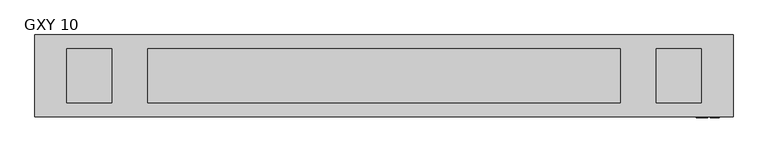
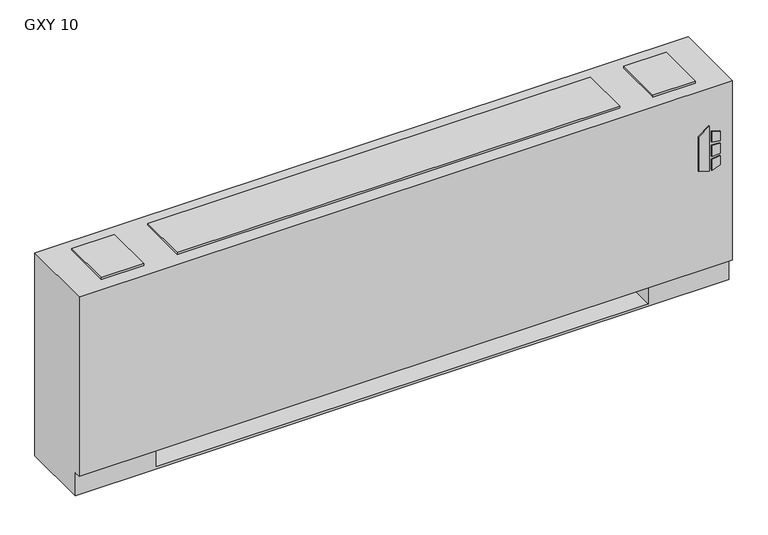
"""IFC4 building model written with IfcOpenShell, lengths in millimetres: proxy geometry, Vertical_Fan_Coil_Unit_-_GXY_-_IEC_-_2-Pipe_TS-FR_LH_2022 : GXY 10."""

from ifc_helpers import new_model, si_unit, point, frame, frame_2d, origin, place, context, project, spatial, polyline, circle_curve, trimmed, segment, composite_curve, outline, extrude, source, transform, mapped, element, save
from ifc_brep_helpers import plane_surface, revolved_surface, advanced_brep


def gxy_10_d176e5a6(model_context):
    return source(origin(), model_context, "Body", "SolidModel", [
        extrude(outline(polyline([(391.6086829, 1027.1868862), (381.6606126, 1059.3602728), (523.831537, 1059.3602728), (500.8095309, 1027.1868862), (391.6086829, 1027.1868862)])), frame((0.0, 12.7, 0.0), z_axis=(0.0, 1.0, 0.0), x_axis=(0.0, 0.0, 1.0)), (0.0, 0.0, 1.0), 3.175),
        extrude(outline(polyline([(470.6079683, 1066.1186058), (467.4055757, 1092.2), (496.6344168, 1092.2), (504.6988318, 1066.1186058), (470.6079683, 1066.1186058)])), frame((0.0, 12.7, 0.0), z_axis=(0.0, 1.0, 0.0), x_axis=(0.0, 0.0, 1.0)), (0.0, 0.0, 1.0), 3.175),
        extrude(outline(polyline([(418.7444414, 1092.2), (415.0789404, 1066.1186058), (381.6606126, 1066.1186058), (390.2948498, 1092.2), (418.7444414, 1092.2)])), frame((0.0, 12.7, 0.0), z_axis=(0.0, 1.0, 0.0), x_axis=(0.0, 0.0, 1.0)), (0.0, 0.0, 1.0), 3.175),
        extrude(outline(polyline([(458.0596028, 1092.2), (460.3414292, 1066.1186058), (424.4038806, 1066.1186058), (427.1451456, 1092.2), (458.0596028, 1092.2)])), frame((0.0, 12.7, 0.0), z_axis=(0.0, 1.0, 0.0), x_axis=(0.0, 0.0, 1.0)), (0.0, 0.0, 1.0), 3.175),
        extrude(outline(polyline([(889.0, 81.534), (889.0, 223.266), (1009.65, 223.266), (1009.65, 81.534), (889.0, 81.534)])), frame((0.0, 0.0, 327.025), z_axis=(0.0, 0.0, 1.0), x_axis=(1.0, 0.0, 0.0)), (0.0, 0.0, 1.0), 260.35),
        extrude(outline(polyline([(-609.6, 206.375), (-609.6, 53.975), (-736.6, 53.975), (-736.6, 206.375), (-609.6, 206.375)])), frame((0.0, 0.0, 641.35), z_axis=(0.0, 0.0, 1.0), x_axis=(1.0, 0.0, 0.0)), (0.0, 0.0, 1.0), 6.35),
        extrude(outline(polyline([(1041.4, 206.375), (1041.4, 53.975), (914.4, 53.975), (914.4, 206.375), (1041.4, 206.375)])), frame((0.0, 0.0, 641.35), z_axis=(0.0, 0.0, 1.0), x_axis=(1.0, 0.0, 0.0)), (0.0, 0.0, 1.0), 6.35),
        extrude(outline(composite_curve([segment(trimmed(circle_curve(frame_2d((78.9432, 398.5514)), 7.9375), [point((78.9432, 406.4889))], [point((78.9432, 390.6139))], False, "CARTESIAN"), True, "CONTINUOUS"), segment(trimmed(circle_curve(frame_2d((78.9432, 398.5514)), 7.9375), [point((78.9432, 390.6139))], [point((78.9432, 406.4889))], False, "CARTESIAN"), True, "CONTINUOUS")], self_intersect=False)), frame((-635.0, 0.0, 0.0), z_axis=(1.0, 0.0, 0.0), x_axis=(0.0, 1.0, 0.0)), (0.0, 0.0, 1.0), 50.8),
        extrude(outline(composite_curve([segment(trimmed(circle_curve(frame_2d((155.9052, 537.3878)), 7.9375), [point((155.9052, 545.3253))], [point((155.9052, 529.4503))], False, "CARTESIAN"), True, "CONTINUOUS"), segment(trimmed(circle_curve(frame_2d((155.9052, 537.3878)), 7.9375), [point((155.9052, 529.4503))], [point((155.9052, 545.3253))], False, "CARTESIAN"), True, "CONTINUOUS")], self_intersect=False)), frame((-635.0, 0.0, 0.0), z_axis=(1.0, 0.0, 0.0), x_axis=(0.0, 1.0, 0.0)), (0.0, 0.0, 1.0), 50.8),
        advanced_brep(
        [(1130.3, 244.475, 641.35), (-825.5, 244.475, 641.35), (-825.5, 15.875, 641.35), (1130.3, 15.875, 641.35), (-825.5, 244.475, 0.0), (1130.3, 244.475, 0.0), (1130.3, 34.925, 0.0), (-825.5, 34.925, 0.0), (889.0, 244.475, 73.025), (1117.6, 244.475, 73.025), (1117.6, 244.475, 628.65), (889.0, 244.475, 628.65), (889.0, 244.475, 418.0400565), (917.575, 244.475, 418.0400565), (917.575, 244.475, 388.4099435), (889.0, 244.475, 388.4099435), (889.0, 244.475, 290.5125), (917.575, 244.475, 290.5125), (917.575, 244.475, 261.9375), (889.0, 244.475, 261.9375), (889.0, 244.475, 119.0625), (917.575, 244.475, 119.0625), (917.575, 244.475, 90.4875), (889.0, 244.475, 90.4875), (-584.2, 244.475, 628.65), (-812.8, 244.475, 628.65), (-812.8, 244.475, 73.025), (-584.2, 244.475, 73.025), (-584.2, 244.475, 90.4875), (-612.775, 244.475, 90.4875), (-612.775, 244.475, 119.0625), (-584.2, 244.475, 119.0625), (-584.2, 244.475, 261.9375), (-612.775, 244.475, 261.9375), (-612.775, 244.475, 290.5125), (-584.2, 244.475, 290.5125), (-584.2, 244.475, 388.4099435), (-612.775, 244.475, 388.4099435), (-612.775, 244.475, 418.0400565), (-584.2, 244.475, 418.0400565), (907.2626, 244.475, 104.775), (896.1374, 244.475, 104.775), (907.2626, 244.475, 403.225), (896.1374, 244.475, 403.225), (907.2626, 244.475, 276.225), (896.1374, 244.475, 276.225), (-591.3374, 244.475, 104.775), (-602.4626, 244.475, 104.775), (-591.3374, 244.475, 276.225), (-602.4626, 244.475, 276.225), (-591.3374, 244.475, 403.225), (-602.4626, 244.475, 403.225), (-825.5, 34.925, 73.025), (-825.5, 15.875, 73.025), (1130.3, 15.875, 73.025), (1130.3, 34.925, 73.025), (-584.2, 34.925, 73.025), (-584.2, 219.075, 73.025), (889.0, 219.075, 73.025), (889.0, 34.925, 73.025), (889.0, 34.925, 6.35), (-584.2, 34.925, 6.35), (889.0, 41.275, 628.65), (1117.6, 41.275, 628.65), (1117.6, 41.275, 73.025), (889.0, 41.275, 73.025), (-584.2, 41.275, 628.65), (-584.2, 41.275, 73.025), (-812.8, 41.275, 73.025), (-812.8, 41.275, 628.65), (889.0, 219.075, 73.025), (889.0, 238.125, 90.4875), (889.0, 238.125, 119.0625), (889.0, 238.125, 261.9375), (889.0, 238.125, 290.5125), (889.0, 238.125, 388.4099435), (889.0, 238.125, 418.0400565), (-584.2, 219.075, 73.025), (-584.2, 238.125, 418.0400565), (-584.2, 238.125, 388.4099435), (-584.2, 238.125, 290.5125), (-584.2, 238.125, 261.9375), (-584.2, 238.125, 119.0625), (-584.2, 238.125, 90.4875), (-584.2, 219.075, 6.35), (889.0, 219.075, 6.35), (917.575, 238.125, 90.4875), (917.575, 238.125, 119.0625), (896.1374, 238.125, 104.775), (907.2626, 238.125, 104.775), (917.575, 238.125, 261.9375), (917.575, 238.125, 290.5125), (896.1374, 238.125, 276.225), (907.2626, 238.125, 276.225), (917.575, 238.125, 388.4099435), (917.575, 238.125, 418.0400565), (896.1374, 238.125, 403.225), (907.2626, 238.125, 403.225), (-612.775, 238.125, 119.0625), (-612.775, 238.125, 90.4875), (-602.4626, 238.125, 104.775), (-591.3374, 238.125, 104.775), (-612.775, 238.125, 290.5125), (-612.775, 238.125, 261.9375), (-602.4626, 238.125, 276.225), (-591.3374, 238.125, 276.225), (-612.775, 238.125, 418.0400565), (-612.775, 238.125, 388.4099435), (-602.4626, 238.125, 403.225), (-591.3374, 238.125, 403.225)],
        [
            (0, 1),
            (1, 2),
            (2, 3),
            (3, 0),
            (4, 5),
            (5, 6),
            (6, 7),
            (7, 4),
            (0, 5),
            (4, 1),
            (8, 9),
            (9, 10),
            (10, 11),
            (11, 12),
            (12, 13),
            (13, 14),
            (14, 15),
            (15, 16),
            (16, 17),
            (17, 18),
            (18, 19),
            (19, 20),
            (20, 21),
            (21, 22),
            (22, 23),
            (23, 8),
            (24, 25),
            (25, 26),
            (26, 27),
            (27, 28),
            (28, 29),
            (29, 30),
            (30, 31),
            (31, 32),
            (32, 33),
            (33, 34),
            (34, 35),
            (35, 36),
            (36, 37),
            (37, 38),
            (38, 39),
            (39, 24),
            (40, 41, circle_curve(frame((901.7, 244.475, 104.775), z_axis=(0.0, -1.0, 0.0), x_axis=(-1.0, 0.0, 0.0)), 5.5626)),
            (41, 40, circle_curve(frame((901.7, 244.475, 104.775), z_axis=(0.0, -1.0, 0.0), x_axis=(-1.0, 0.0, 0.0)), 5.5626)),
            (42, 43, circle_curve(frame((901.7, 244.475, 403.225), z_axis=(0.0, -1.0, 0.0), x_axis=(-1.0, 0.0, 0.0)), 5.5626)),
            (43, 42, circle_curve(frame((901.7, 244.475, 403.225), z_axis=(0.0, -1.0, 0.0), x_axis=(-1.0, 0.0, 0.0)), 5.5626)),
            (44, 45, circle_curve(frame((901.7, 244.475, 276.225), z_axis=(0.0, -1.0, 0.0), x_axis=(-1.0, 0.0, 0.0)), 5.5626)),
            (45, 44, circle_curve(frame((901.7, 244.475, 276.225), z_axis=(0.0, -1.0, 0.0), x_axis=(-1.0, 0.0, 0.0)), 5.5626)),
            (46, 47, circle_curve(frame((-596.9, 244.475, 104.775), z_axis=(0.0, -1.0, 0.0), x_axis=(-1.0, 0.0, 0.0)), 5.5626)),
            (47, 46, circle_curve(frame((-596.9, 244.475, 104.775), z_axis=(0.0, -1.0, 0.0), x_axis=(-1.0, 0.0, 0.0)), 5.5626)),
            (48, 49, circle_curve(frame((-596.9, 244.475, 276.225), z_axis=(0.0, -1.0, 0.0), x_axis=(-1.0, 0.0, 0.0)), 5.5626)),
            (49, 48, circle_curve(frame((-596.9, 244.475, 276.225), z_axis=(0.0, -1.0, 0.0), x_axis=(-1.0, 0.0, 0.0)), 5.5626)),
            (50, 51, circle_curve(frame((-596.9, 244.475, 403.225), z_axis=(0.0, -1.0, 0.0), x_axis=(-1.0, 0.0, 0.0)), 5.5626)),
            (51, 50, circle_curve(frame((-596.9, 244.475, 403.225), z_axis=(0.0, -1.0, 0.0), x_axis=(-1.0, 0.0, 0.0)), 5.5626)),
            (7, 52),
            (52, 53),
            (53, 2),
            (53, 54),
            (54, 3),
            (54, 55),
            (55, 6),
            (52, 56),
            (56, 57),
            (57, 58),
            (58, 59),
            (59, 55),
            (59, 60),
            (60, 61),
            (61, 56),
            (62, 63),
            (63, 64),
            (64, 65),
            (65, 62),
            (66, 67),
            (67, 68),
            (68, 69),
            (69, 66),
            (65, 70),
            (70, 8),
            (23, 71),
            (71, 72),
            (72, 20),
            (19, 73),
            (73, 74),
            (74, 16),
            (15, 75),
            (75, 76),
            (76, 12),
            (11, 62),
            (64, 9),
            (63, 10),
            (69, 25),
            (24, 66),
            (68, 26),
            (67, 77),
            (77, 27),
            (39, 78),
            (78, 79),
            (79, 36),
            (35, 80),
            (80, 81),
            (81, 32),
            (31, 82),
            (82, 83),
            (83, 28),
            (57, 84),
            (84, 85),
            (85, 58),
            (85, 60),
            (84, 61),
            (71, 86),
            (86, 87),
            (87, 72),
            (88, 89, circle_curve(frame((901.7, 238.125, 104.775), z_axis=(0.0, 1.0, 0.0), x_axis=(-1.0, 0.0, 0.0)), 5.5626)),
            (89, 88, circle_curve(frame((901.7, 238.125, 104.775), z_axis=(0.0, 1.0, 0.0), x_axis=(-1.0, 0.0, 0.0)), 5.5626)),
            (73, 90),
            (90, 91),
            (91, 74),
            (92, 93, circle_curve(frame((901.7, 238.125, 276.225), z_axis=(0.0, 1.0, 0.0), x_axis=(-1.0, 0.0, 0.0)), 5.5626)),
            (93, 92, circle_curve(frame((901.7, 238.125, 276.225), z_axis=(0.0, 1.0, 0.0), x_axis=(-1.0, 0.0, 0.0)), 5.5626)),
            (75, 94),
            (94, 95),
            (95, 76),
            (96, 97, circle_curve(frame((901.7, 238.125, 403.225), z_axis=(0.0, 1.0, 0.0), x_axis=(-1.0, 0.0, 0.0)), 5.5626)),
            (97, 96, circle_curve(frame((901.7, 238.125, 403.225), z_axis=(0.0, 1.0, 0.0), x_axis=(-1.0, 0.0, 0.0)), 5.5626)),
            (98, 99),
            (99, 83),
            (82, 98),
            (100, 101, circle_curve(frame((-596.9, 238.125, 104.775), z_axis=(0.0, 1.0, 0.0), x_axis=(-1.0, 0.0, 0.0)), 5.5626)),
            (101, 100, circle_curve(frame((-596.9, 238.125, 104.775), z_axis=(0.0, 1.0, 0.0), x_axis=(-1.0, 0.0, 0.0)), 5.5626)),
            (102, 103),
            (103, 81),
            (80, 102),
            (104, 105, circle_curve(frame((-596.9, 238.125, 276.225), z_axis=(0.0, 1.0, 0.0), x_axis=(-1.0, 0.0, 0.0)), 5.5626)),
            (105, 104, circle_curve(frame((-596.9, 238.125, 276.225), z_axis=(0.0, 1.0, 0.0), x_axis=(-1.0, 0.0, 0.0)), 5.5626)),
            (106, 107),
            (107, 79),
            (78, 106),
            (108, 109, circle_curve(frame((-596.9, 238.125, 403.225), z_axis=(0.0, 1.0, 0.0), x_axis=(-1.0, 0.0, 0.0)), 5.5626)),
            (109, 108, circle_curve(frame((-596.9, 238.125, 403.225), z_axis=(0.0, 1.0, 0.0), x_axis=(-1.0, 0.0, 0.0)), 5.5626)),
            (87, 21),
            (86, 22),
            (91, 17),
            (90, 18),
            (95, 13),
            (94, 14),
            (30, 98),
            (99, 29),
            (34, 102),
            (103, 33),
            (38, 106),
            (107, 37),
            (88, 41),
            (40, 89),
            (96, 43),
            (42, 97),
            (92, 45),
            (44, 93),
            (100, 47),
            (46, 101),
            (104, 49),
            (48, 105),
            (108, 51),
            (50, 109),
        ],
        [
            plane_surface(frame((-825.5, 244.475, 641.35), z_axis=(0.0, 0.0, 1.0), x_axis=(-1.0, 0.0, 0.0))),
            plane_surface(frame((-825.5, 244.475, 0.0), z_axis=(0.0, 0.0, -1.0), x_axis=(1.0, 0.0, 0.0))),
            plane_surface(frame((1130.3, 244.475, 641.35), z_axis=(0.0, 1.0, 0.0), x_axis=(0.0, 0.0, -1.0))),
            plane_surface(frame((-825.5, 244.475, 641.35), z_axis=(-1.0, 0.0, 0.0), x_axis=(0.0, 0.0, -1.0))),
            plane_surface(frame((-825.5, 15.875, 641.35), z_axis=(0.0, -1.0, 0.0), x_axis=(0.0, 0.0, -1.0))),
            plane_surface(frame((1130.3, 15.875, 641.35), z_axis=(1.0, 0.0, 0.0), x_axis=(0.0, 0.0, -1.0))),
            plane_surface(frame((-825.5, 15.875, 73.025), z_axis=(0.0, 0.0, -1.0), x_axis=(1.0, 0.0, 0.0))),
            plane_surface(frame((-825.5, 34.925, 73.025), z_axis=(0.0, -1.0, 0.0), x_axis=(1.0, 0.0, 0.0))),
            plane_surface(frame((889.0, 41.275, 628.65), z_axis=(0.0, 1.0, 0.0), x_axis=(0.0, 0.0, -1.0))),
            plane_surface(frame((889.0, 41.275, 628.65), z_axis=(1.0, 0.0, 0.0), x_axis=(0.0, 1.0, 0.0))),
            plane_surface(frame((889.0, 41.275, 73.025), z_axis=(0.0, 0.0, 1.0), x_axis=(0.0, 1.0, 0.0))),
            plane_surface(frame((1117.6, 41.275, 73.025), z_axis=(-1.0, 0.0, 0.0), x_axis=(0.0, 1.0, 0.0))),
            plane_surface(frame((1117.6, 41.275, 628.65), z_axis=(0.0, 0.0, -1.0), x_axis=(0.0, 1.0, 0.0))),
            plane_surface(frame((-584.2, 41.275, 628.65), z_axis=(0.0, 0.0, -1.0), x_axis=(0.0, 1.0, 0.0))),
            plane_surface(frame((-812.8, 41.275, 628.65), z_axis=(1.0, 0.0, 0.0), x_axis=(0.0, 1.0, 0.0))),
            plane_surface(frame((-812.8, 41.275, 73.025), z_axis=(0.0, 0.0, 1.0), x_axis=(0.0, 1.0, 0.0))),
            plane_surface(frame((-584.2, 41.275, 73.025), z_axis=(-1.0, 0.0, 0.0), x_axis=(0.0, 1.0, 0.0))),
            plane_surface(frame((889.0, 219.075, 73.025), z_axis=(0.0, -1.0, 0.0), x_axis=(0.0, 0.0, -1.0))),
            plane_surface(frame((889.0, 219.075, 73.025), z_axis=(-1.0, 0.0, 0.0), x_axis=(0.0, -1.0, 0.0))),
            plane_surface(frame((889.0, 219.075, 6.35), z_axis=(0.0, 0.0, 1.0), x_axis=(0.0, -1.0, 0.0))),
            plane_surface(frame((-584.2, 219.075, 6.35), z_axis=(1.0, 0.0, 0.0), x_axis=(0.0, -1.0, 0.0))),
            plane_surface(frame((917.575, 238.125, 119.0625), z_axis=(0.0, -1.0, 0.0), x_axis=(-1.0, 0.0, 0.0))),
            plane_surface(frame((889.0, 244.475, 119.0625), z_axis=(0.0, 0.0, 1.0), x_axis=(0.0, -1.0, 0.0))),
            plane_surface(frame((917.575, 244.475, 119.0625), z_axis=(1.0, 0.0, 0.0), x_axis=(0.0, -1.0, 0.0))),
            plane_surface(frame((917.575, 244.475, 90.4875), z_axis=(0.0, 0.0, -1.0), x_axis=(0.0, -1.0, 0.0))),
            plane_surface(frame((889.0, 244.475, 290.5125), z_axis=(0.0, 0.0, 1.0), x_axis=(0.0, -1.0, 0.0))),
            plane_surface(frame((917.575, 244.475, 290.5125), z_axis=(1.0, 0.0, 0.0), x_axis=(0.0, -1.0, 0.0))),
            plane_surface(frame((917.575, 244.475, 261.9375), z_axis=(0.0, 0.0, -1.0), x_axis=(0.0, -1.0, 0.0))),
            plane_surface(frame((889.0, 244.475, 418.0400565), z_axis=(0.0, 0.0, 1.0), x_axis=(0.0, -1.0, 0.0))),
            plane_surface(frame((917.575, 244.475, 418.0400565), z_axis=(1.0, 0.0, 0.0), x_axis=(0.0, -1.0, 0.0))),
            plane_surface(frame((917.575, 244.475, 388.4099435), z_axis=(0.0, 0.0, -1.0), x_axis=(0.0, -1.0, 0.0))),
            plane_surface(frame((-612.775, 244.475, 119.0625), z_axis=(0.0, 0.0, 1.0), x_axis=(0.0, -1.0, 0.0))),
            plane_surface(frame((-584.2, 244.475, 90.4875), z_axis=(0.0, 0.0, -1.0), x_axis=(0.0, -1.0, 0.0))),
            plane_surface(frame((-612.775, 244.475, 90.4875), z_axis=(-1.0, 0.0, 0.0), x_axis=(0.0, -1.0, 0.0))),
            plane_surface(frame((-612.775, 244.475, 290.5125), z_axis=(0.0, 0.0, 1.0), x_axis=(0.0, -1.0, 0.0))),
            plane_surface(frame((-584.2, 244.475, 261.9375), z_axis=(0.0, 0.0, -1.0), x_axis=(0.0, -1.0, 0.0))),
            plane_surface(frame((-612.775, 244.475, 261.9375), z_axis=(-1.0, 0.0, 0.0), x_axis=(0.0, -1.0, 0.0))),
            plane_surface(frame((-612.775, 244.475, 418.0400565), z_axis=(0.0, 0.0, 1.0), x_axis=(0.0, -1.0, 0.0))),
            plane_surface(frame((-584.2, 244.475, 388.4099435), z_axis=(0.0, 0.0, -1.0), x_axis=(0.0, -1.0, 0.0))),
            plane_surface(frame((-612.775, 244.475, 388.4099435), z_axis=(-1.0, 0.0, 0.0), x_axis=(0.0, -1.0, 0.0))),
            revolved_surface(polyline([(896.1374000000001, 238.125, 104.775), (896.1374000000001, 244.475, 104.775)]), (901.7, 244.475, 104.775), (0.0, -1.0, 0.0)),
            revolved_surface(polyline([(896.1374000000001, 238.125, 403.225), (896.1374000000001, 244.475, 403.225)]), (901.7, 244.475, 403.225), (0.0, -1.0, 0.0)),
            revolved_surface(polyline([(896.1374000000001, 238.125, 276.225), (896.1374000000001, 244.475, 276.225)]), (901.7, 244.475, 276.225), (0.0, -1.0, 0.0)),
            revolved_surface(polyline([(-602.4626, 238.125, 104.775), (-602.4626, 244.475, 104.775)]), (-596.9, 244.475, 104.775), (0.0, -1.0, 0.0)),
            revolved_surface(polyline([(-602.4626, 238.125, 276.225), (-602.4626, 244.475, 276.225)]), (-596.9, 244.475, 276.225), (0.0, -1.0, 0.0)),
            revolved_surface(polyline([(-602.4626, 238.125, 403.225), (-602.4626, 244.475, 403.225)]), (-596.9, 244.475, 403.225), (0.0, -1.0, 0.0)),
        ],
        [
            (0, [[1, 2, 3, 4]]),
            (1, [[5, 6, 7, 8]]),
            (2, [[-1, 9, -5, 10], [11, 12, 13, 14, 15, 16, 17, 18, 19, 20, 21, 22, 23, 24, 25, 26], [27, 28, 29, 30, 31, 32, 33, 34, 35, 36, 37, 38, 39, 40, 41, 42], [43, 44], [45, 46], [47, 48], [49, 50], [51, 52], [53, 54]]),
            (3, [[-2, -10, -8, 55, 56, 57]]),
            (4, [[-3, -57, 58, 59]]),
            (5, [[-4, -59, 60, 61, -6, -9]]),
            (6, [[-56, 62, 63, 64, 65, 66, -60, -58]]),
            (7, [[-7, -61, -66, 67, 68, 69, -62, -55]]),
            (8, [[70, 71, 72, 73]]),
            (8, [[74, 75, 76, 77]]),
            (9, [[-73, 78, 79, -26, 80, 81, 82, -22, 83, 84, 85, -18, 86, 87, 88, -14, 89]]),
            (10, [[-72, 90, -11, -79, -78]]),
            (11, [[-71, 91, -12, -90]]),
            (12, [[-70, -89, -13, -91]]),
            (13, [[-77, 92, -27, 93]]),
            (14, [[-76, 94, -28, -92]]),
            (15, [[-75, 95, 96, -29, -94]]),
            (16, [[-74, -93, -42, 97, 98, 99, -38, 100, 101, 102, -34, 103, 104, 105, -30, -96, -95]]),
            (17, [[-64, 106, 107, 108]]),
            (18, [[-108, 109, -67, -65]]),
            (19, [[-107, 110, -68, -109]]),
            (20, [[-106, -63, -69, -110]]),
            (21, [[111, 112, 113, -81], [114, 115]]),
            (21, [[116, 117, 118, -84], [119, 120]]),
            (21, [[121, 122, 123, -87], [124, 125]]),
            (21, [[126, 127, -104, 128], [129, 130]]),
            (21, [[131, 132, -101, 133], [134, 135]]),
            (21, [[136, 137, -98, 138], [139, 140]]),
            (22, [[-113, 141, -23, -82]]),
            (23, [[-112, 142, -24, -141]]),
            (24, [[-111, -80, -25, -142]]),
            (25, [[-118, 143, -19, -85]]),
            (26, [[-117, 144, -20, -143]]),
            (27, [[-116, -83, -21, -144]]),
            (28, [[-123, 145, -15, -88]]),
            (29, [[-122, 146, -16, -145]]),
            (30, [[-121, -86, -17, -146]]),
            (31, [[-128, -103, -33, 147]]),
            (32, [[-127, 148, -31, -105]]),
            (33, [[-126, -147, -32, -148]]),
            (34, [[-133, -100, -37, 149]]),
            (35, [[-132, 150, -35, -102]]),
            (36, [[-131, -149, -36, -150]]),
            (37, [[-138, -97, -41, 151]]),
            (38, [[-137, 152, -39, -99]]),
            (39, [[-136, -151, -40, -152]]),
            (40, [[153, -43, 154, -114]]),
            (40, [[-153, -115, -154, -44]]),
            (41, [[155, -45, 156, -124]]),
            (41, [[-155, -125, -156, -46]]),
            (42, [[157, -47, 158, -119]]),
            (42, [[-157, -120, -158, -48]]),
            (43, [[159, -49, 160, -129]]),
            (43, [[-159, -130, -160, -50]]),
            (44, [[161, -51, 162, -134]]),
            (44, [[-161, -135, -162, -52]]),
            (45, [[163, -53, 164, -139]]),
            (45, [[-163, -140, -164, -54]]),
        ],
    ),
        extrude(outline(polyline([(814.3875, 206.375), (814.3875, 53.975), (-509.5875, 53.975), (-509.5875, 206.375), (814.3875, 206.375)])), frame((0.0, 0.0, 641.35), z_axis=(0.0, 0.0, 1.0), x_axis=(1.0, 0.0, 0.0)), (0.0, 0.0, 1.0), 6.35),
    ])


if __name__ == "__main__":
    model = new_model("IFC4")
    model_context = context("Model", 3, world=origin())
    ifc_project = project(units=[si_unit("LENGTHUNIT", "METRE", prefix="MILLI")], contexts=[model_context])
    site = spatial("IfcSite", under=ifc_project)
    building = spatial("IfcBuilding", under=site)
    placement = place(None, origin())
    gxy_10_shape = gxy_10_d176e5a6(model_context)
    element("IfcBuildingElementProxy", 1, Name="Vertical_Fan_Coil_Unit_-_GXY_-_IEC_-_2-Pipe_TS-FR_LH_2022 : GXY 10", ObjectType="Vertical_Fan_Coil_Unit_-_GXY_-_IEC_-_2-Pipe_TS-FR_LH_2022 : GXY 10", at=placement, inside=building, context=model_context, shape_type="MappedRepresentation", body=[
        mapped(gxy_10_shape, transform((0.0, 0.0, 0.0), x_axis=(1.0, 0.0, 0.0), y_axis=(0.0, 1.0, 0.0), z_axis=(0.0, 0.0, 1.0))),
    ])
    save(model, "model.ifc")
